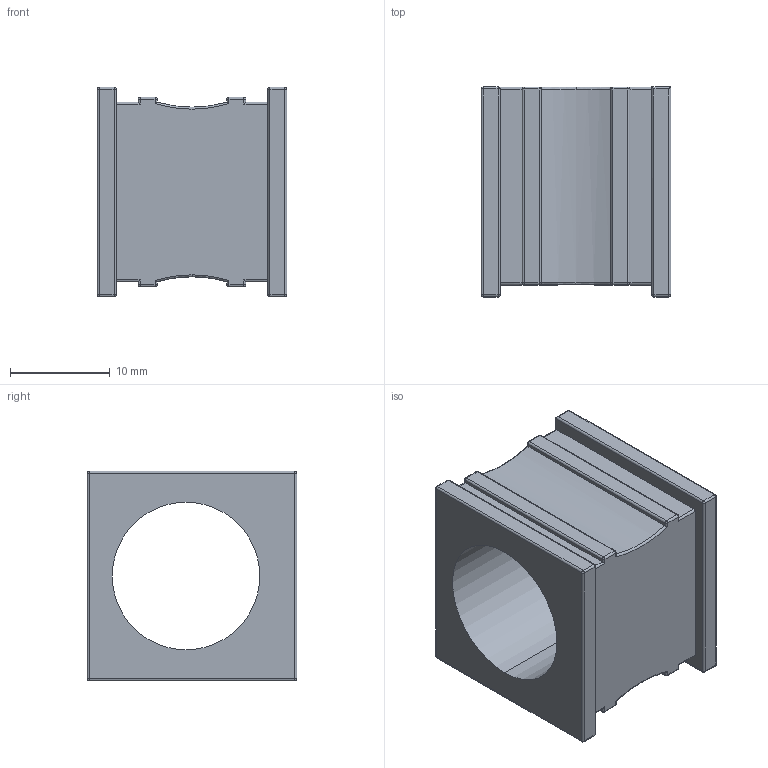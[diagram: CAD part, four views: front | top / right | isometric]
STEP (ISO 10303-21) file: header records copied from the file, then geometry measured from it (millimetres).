
FILE_DESCRIPTION (( 'STEP AP203' ), '1' );
FILE_NAME ('039901 KTs16.STEP', '2023-03-07T05:19:09', ( '' ), ( '' ), 'SwSTEP 2.0', 'SolidWorks 2016', '' );
FILE_SCHEMA (( 'CONFIG_CONTROL_DESIGN' ));
Length unit declared in the file: millimetre
Products named in the file (1): 039901 KTs16
Bounding box: 19 x 21 x 21 mm (x, y, z)
Volume: 3792.4 mm3; surface area: 3106 mm2
Topology: 1 solids, 1 shells, 160 faces, 382 edges, 197 vertices
Faces by surface type: cylinder 71, bspline 48, plane 41
Entity records: 5354 total; most frequent: CARTESIAN_POINT 2028, ORIENTED_EDGE 702, DIRECTION 641, EDGE_CURVE 351, AXIS2_PLACEMENT_3D 228, VERTEX_POINT 197, LINE 185, VECTOR 185
